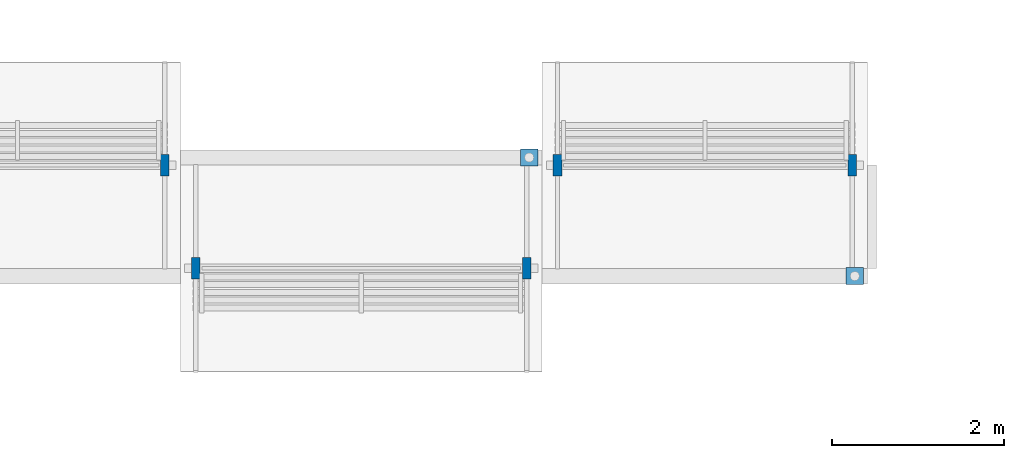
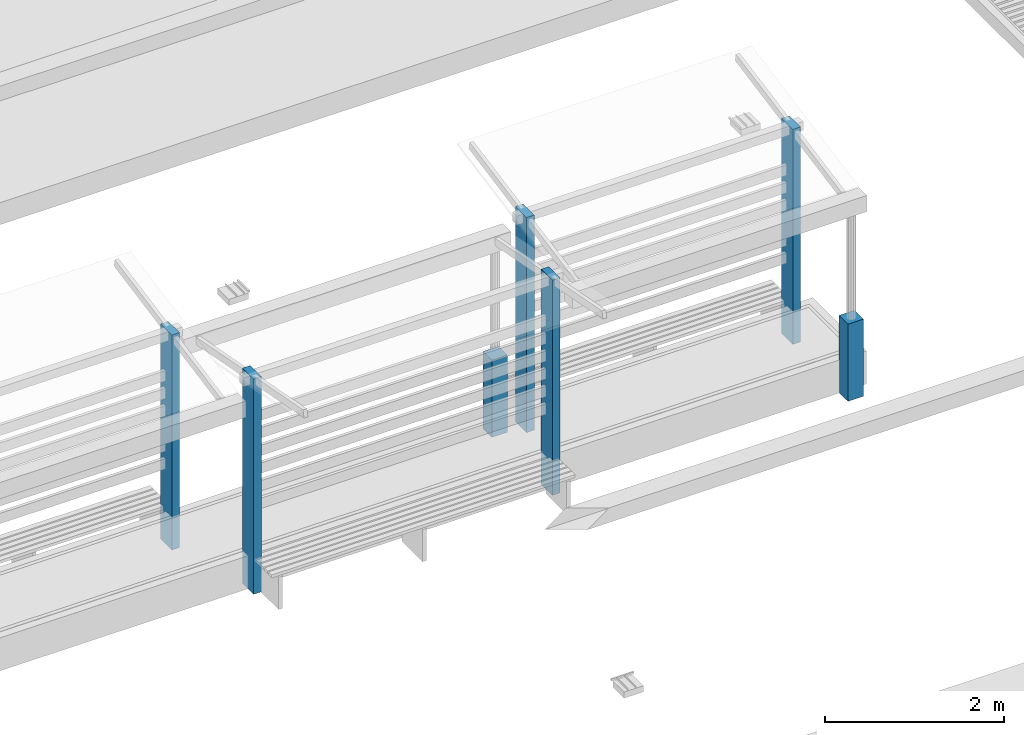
# One storey, part 6 of 90: 7 columns.
"""IFC2X3 building model written with IfcOpenShell, lengths in metres."""

from ifc_helpers import new_model, si_unit, origin, origin_with_axes, place, context, subcontext, project, spatial, faceted_brep, element, save


model = new_model("IFC2X3")

# Units and contexts
model_context = context("Model", 3, precision=1e-05, world=origin_with_axes())
body_context = subcontext(model_context, "Body", "Model", "MODEL_VIEW")
ifc_project = project(units=[si_unit("LENGTHUNIT", "METRE"), si_unit("AREAUNIT", "SQUARE_METRE"), si_unit("VOLUMEUNIT", "CUBIC_METRE"), si_unit("PLANEANGLEUNIT", "RADIAN")], contexts=[model_context])

# Site, building, storey
site_placement = place(None, origin_with_axes())
site = spatial("IfcSite", under=ifc_project, at=site_placement, Name="Predio Los Mangos - Morales, San Martín", CompositionType="ELEMENT")
building_placement = place(site_placement, origin())
building = spatial("IfcBuilding", under=site, at=building_placement, Name="Hogar de Refugio Temporal", CompositionType="ELEMENT")
storey_placement = place(building_placement, origin())
storey = spatial("IfcBuildingStorey", under=building, at=storey_placement, Name="NIVEL 1 (NPT +0.00)", CompositionType="ELEMENT", Elevation=0.0)

# Columns
column_1_placement = place(storey_placement, origin())
element("IfcColumn", 1, at=column_1_placement, inside=storey, Name="oc01_columna", ObjectType="Columna", context=body_context, shape_type="Brep", body=[
    faceted_brep([(46.115, 110.975, 0.0), (46.115, 110.725, 0.0), (46.015, 110.725, 0.0), (46.015, 110.975, 0.0), (46.115, 110.975, 2.93), (46.015, 110.975, 2.93), (46.015, 110.725, 2.93), (46.115, 110.725, 2.93)], [[[0, 1, 2, 3]], [[4, 5, 6, 7]], [[0, 3, 5, 4]], [[3, 2, 6, 5]], [[2, 1, 7, 6]], [[1, 0, 4, 7]]]),
])
column_2_placement = place(storey_placement, origin())
element("IfcColumn", 2, at=column_2_placement, inside=storey, Name="oc01_columna", ObjectType="Columna", context=body_context, shape_type="Brep", body=[
    faceted_brep([(42.685, 110.975, 0.0), (42.685, 110.725, 0.0), (42.585, 110.725, 0.0), (42.585, 110.975, 0.0), (42.685, 110.975, 2.93), (42.585, 110.975, 2.93), (42.585, 110.725, 2.93), (42.685, 110.725, 2.93)], [[[0, 1, 2, 3]], [[4, 5, 6, 7]], [[0, 3, 5, 4]], [[3, 2, 6, 5]], [[2, 1, 7, 6]], [[1, 0, 4, 7]]]),
])
column_3_placement = place(storey_placement, origin())
element("IfcColumn", 3, at=column_3_placement, inside=storey, Name="oc01_falsa_columna", ObjectType="Falsa columna", context=body_context, shape_type="Brep", body=[
    faceted_brep([(46.195, 109.66, 0.0), (46.195, 109.46, 0.0), (45.995, 109.46, 0.0), (45.995, 109.66, 0.0), (46.195, 109.66, 1.05), (45.995, 109.66, 1.05), (45.995, 109.46, 1.05), (46.195, 109.46, 1.05)], [[[0, 1, 2, 3]], [[4, 5, 6, 7]], [[0, 3, 5, 4]], [[3, 2, 6, 5]], [[2, 1, 7, 6]], [[1, 0, 4, 7]]]),
])
column_4_placement = place(storey_placement, origin())
element("IfcColumn", 4, at=column_4_placement, inside=storey, Name="oc01_columna", ObjectType="Columna", context=body_context, shape_type="Brep", body=[
    faceted_brep([(42.325, 109.775, 0.0), (42.325, 109.525, 0.0), (42.225, 109.525, 0.0), (42.225, 109.775, 0.0), (42.325, 109.775, 2.93), (42.225, 109.775, 2.93), (42.225, 109.525, 2.93), (42.325, 109.525, 2.93)], [[[0, 1, 2, 3]], [[4, 5, 6, 7]], [[0, 3, 5, 4]], [[3, 2, 6, 5]], [[2, 1, 7, 6]], [[1, 0, 4, 7]]]),
])
column_5_placement = place(storey_placement, origin())
element("IfcColumn", 5, at=column_5_placement, inside=storey, Name="oc01_columna", ObjectType="Columna", context=body_context, shape_type="Brep", body=[
    faceted_brep([(38.475, 109.775, 0.0), (38.475, 109.525, 0.0), (38.375, 109.525, 0.0), (38.375, 109.775, 0.0), (38.475, 109.775, 2.93), (38.375, 109.775, 2.93), (38.375, 109.525, 2.93), (38.475, 109.525, 2.93)], [[[0, 1, 2, 3]], [[4, 5, 6, 7]], [[0, 3, 5, 4]], [[3, 2, 6, 5]], [[2, 1, 7, 6]], [[1, 0, 4, 7]]]),
])
column_6_placement = place(storey_placement, origin())
element("IfcColumn", 6, at=column_6_placement, inside=storey, Name="oc01_falsa_columna", ObjectType="Falsa columna", context=body_context, shape_type="Brep", body=[
    faceted_brep([(42.405, 111.04, 0.0), (42.405, 110.84, 0.0), (42.205, 110.84, 0.0), (42.205, 111.04, 0.0), (42.405, 111.04, 1.05), (42.205, 111.04, 1.05), (42.205, 110.84, 1.05), (42.405, 110.84, 1.05)], [[[0, 1, 2, 3]], [[4, 5, 6, 7]], [[0, 3, 5, 4]], [[3, 2, 6, 5]], [[2, 1, 7, 6]], [[1, 0, 4, 7]]]),
])
column_7_placement = place(storey_placement, origin())
element("IfcColumn", 7, at=column_7_placement, inside=storey, Name="oc01_columna", ObjectType="Columna", context=body_context, shape_type="Brep", body=[
    faceted_brep([(38.115, 110.975, 0.0), (38.115, 110.725, 0.0), (38.015, 110.725, 0.0), (38.015, 110.975, 0.0), (38.115, 110.975, 2.93), (38.015, 110.975, 2.93), (38.015, 110.725, 2.93), (38.115, 110.725, 2.93)], [[[0, 1, 2, 3]], [[4, 5, 6, 7]], [[0, 3, 5, 4]], [[3, 2, 6, 5]], [[2, 1, 7, 6]], [[1, 0, 4, 7]]]),
])

save(model, "model.ifc")
